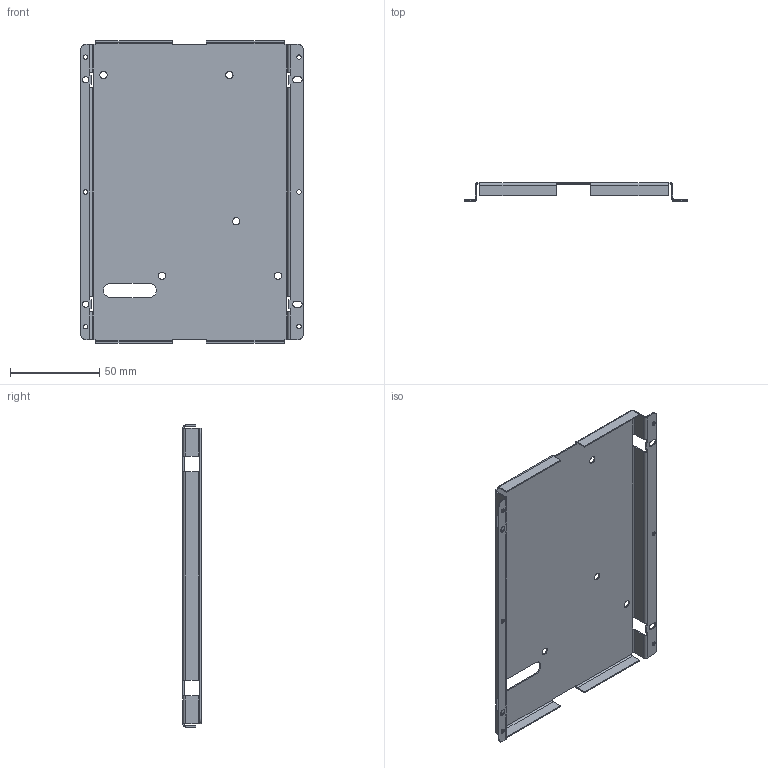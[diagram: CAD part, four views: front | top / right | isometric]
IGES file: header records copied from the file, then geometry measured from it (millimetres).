
Start section:  PTC IGES file: 821021-rev-b.igs
Global section: file name: 821021-rev-b.igs; native system: Pro/ENGINEER by Parametric Technology Corporation; preprocessor: 2008090; author: Doug; organization: Unknown; date: 20100512.155055; units: inch
Bounding box: 124.97 x 10.16 x 168.91 mm (x, y, z)
Surface area: 48851.5 mm2 (no closed solid volume)
Topology: 0 solids, 0 shells, 200 faces, 980 edges, 980 vertices
Faces by surface type: bspline 132, revolution 68
